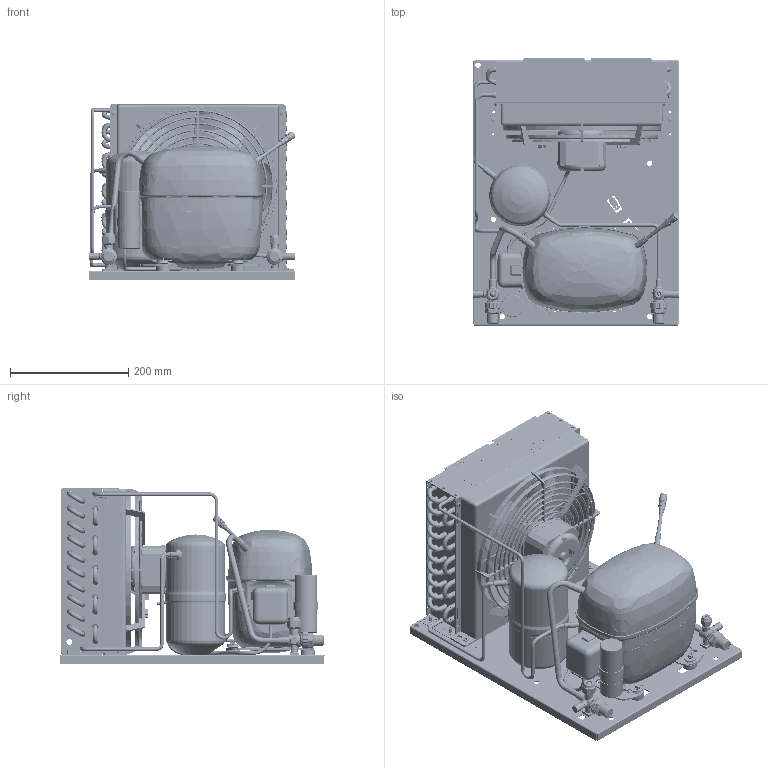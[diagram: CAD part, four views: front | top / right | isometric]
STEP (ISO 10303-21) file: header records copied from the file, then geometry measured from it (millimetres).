
FILE_DESCRIPTION(/* description */ ('Unknown'),/* implementation_level */ '2;1');
FILE_NAME(/* name */ '2298-0053',/* time_stamp */ '2021-12-15T09:23:52+01:00',/* author */ ('Unknown'),/* organization */ ('Unknown'),/* preprocessor_version */ 'ST-DEVELOPER v16.7',/* originating_system */ 'Solid Edge',/* authorisation */ 'Unknown');
FILE_SCHEMA (('AUTOMOTIVE_DESIGN {1 0 10303 214 3 1 1}'));
Products named in the file (44): 2298-0053; 92505122_oa_0; SC15MFX-A-CSIR; 1130270f70; r50112006; r50112007; 2990210; r59700314; r50112001; r50004308; 99000000_piccola; cg254n; NET3T16PVN018; 84fm8x10xxxteff00; 6062_22M6; A254-22; 6072_23m10; 100_200vs00; 84DM8X6.9XXESRF00; 7210-0003; 84RM10X21XXPIAF00; sc18cl-a-csr_piedino; 84v1.8x35xxcopf00; 8392_A; 7560_3; 7030_3m10; 7560_2; 7010_22; 99510255; 8351_2; 99510255_Tubo; 84a4.2x9.5xtbcf01; 84t4.8x8xxxtcca00_oa_1; 84t4.8x8xxxtcca00_oa_2; 84t4.8x8xxxtcca00_oa_3; 84t4.8x8xxxtcca00_oa_4; 84dm4x3.6xxesrf00; 99000082_secop; 6803-1243; 6803-1244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
Assembly tree (92 placements, depth 3):
  2298-0053
    92505122_oa_0
    SC15MFX-A-CSIR
    1130270f70
      r50112006
      r50112007
      2990210  x15
      r59700314  x16
      r50112001
      r50004308
      99000000_piccola
    cg254n
    NET3T16PVN018
    84fm8x10xxxteff00  x2
    6062_22M6
    A254-22
    6072_23m10
    100_200vs00
    84DM8X6.9XXESRF00
    7210-0003  x3
    84RM10X21XXPIAF00  x4
    sc18cl-a-csr_piedino  x4
    84v1.8x35xxcopf00  x4
    8392_A  x2
    7560_3
    7030_3m10
    7560_2
    7010_22
    99510255
      8351_2
      99510255_Tubo
      8392_A
    84a4.2x9.5xtbcf01  x4
    84t4.8x8xxxtcca00_oa_1
    84t4.8x8xxxtcca00_oa_2
    84t4.8x8xxxtcca00_oa_3
    84t4.8x8xxxtcca00_oa_4
    84dm4x3.6xxesrf00  x4
    99000082_secop
    6803-1243
    6803-1244
    680063698
    99000082_SECOP_F-GAS
    6805-1167
    2298-0053_CAVO_VENTOLA
Bounding box: 350 x 452 x 297.36 mm (x, y, z)
Volume: 6122543.3 mm3; surface area: 2552732.7 mm2
Topology: 95 solids, 101 shells, 8327 faces, 21104 edges, 13553 vertices
Faces by surface type: plane 4825, bspline 1292, cylinder 1290, cone 491, torus 399, sphere 30
Full cylindrical faces by diameter (mm): 0.5 x1, 1 x3, 1.2 x6, 1.8 x20, 2.2 x8, 2.31 x6, 2.7 x4, 3 x8, 3.242 x4, 3.3 x3, 3.4 x4, 3.5 x16, 3.6 x4, 3.7 x6, 3.85 x2, 4 x17, 4.2 x18, 4.3 x1, 4.4 x6, 4.5 x6, 4.6 x1, 4.66 x5, 4.7 x4, 4.95 x1, 5 x17, 5.2 x1, 5.4 x6, 5.42 x1, 5.5 x19, 5.6 x1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
Entity records: 346211 total; most frequent: CARTESIAN_POINT 144090, ORIENTED_EDGE 36388, DIRECTION 26649, EDGE_CURVE 18194, VERTEX_POINT 12252, FACE_BOUND 9880, EDGE_LOOP 9878, AXIS2_PLACEMENT_3D 9568
